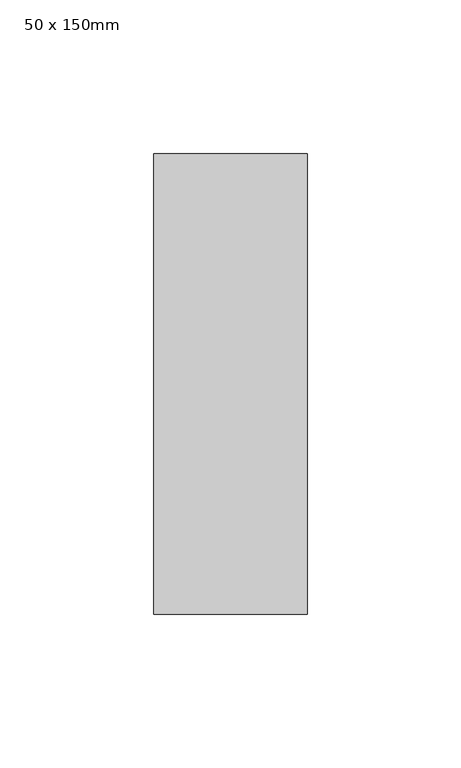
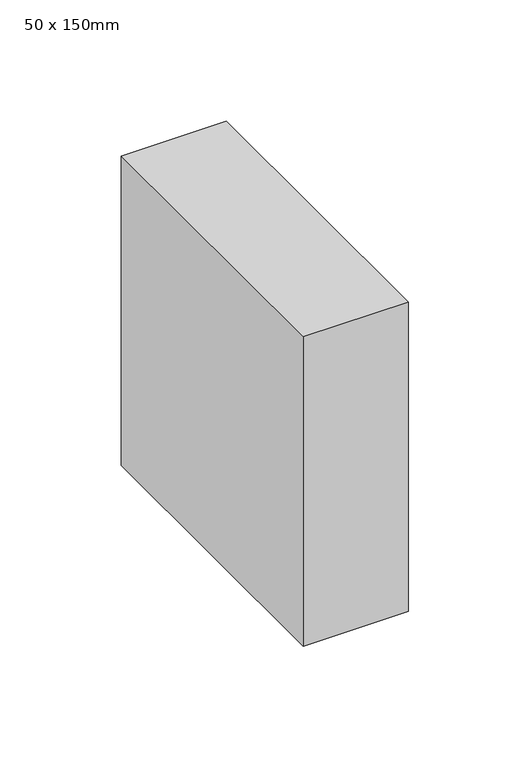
"""IFC4 building model written with IfcOpenShell, lengths in millimetres: member geometry, Прямоугольный импост : 50 x 150mm."""

from ifc_helpers import new_model, si_unit, frame, origin, place, context, project, spatial, polyline, outline, extrude, source, transform, mapped, element, save


def member_50_x_150mm_91a9abd1(model_context):
    return source(origin(), model_context, "Body", "SweptSolid", [
        extrude(outline(polyline([(0.0, 75.0), (0.0, -75.0), (-50.0, -75.0), (-50.0, 75.0), (0.0, 75.0)])), frame((0.0, 0.0, -155.9225923), z_axis=(0.0, 0.0, 1.0), x_axis=(1.0, 0.0, 0.0)), (0.0, 0.0, 1.0), 155.9225923),
    ])


if __name__ == "__main__":
    model = new_model("IFC4")
    model_context = context("Model", 3, world=origin())
    ifc_project = project(units=[si_unit("LENGTHUNIT", "METRE", prefix="MILLI")], contexts=[model_context])
    site = spatial("IfcSite", under=ifc_project)
    building = spatial("IfcBuilding", under=site)
    placement = place(None, origin())
    member_50_x_150mm_shape = member_50_x_150mm_91a9abd1(model_context)
    element("IfcMember", 1, ObjectType="Прямоугольный импост : 50 x 150mm", at=placement, inside=building, context=model_context, shape_type="MappedRepresentation", body=[
        mapped(member_50_x_150mm_shape, transform((0.0, 0.0, 0.0), x_axis=(1.0, 0.0, 0.0), y_axis=(0.0, 1.0, 0.0), z_axis=(0.0, 0.0, 1.0))),
    ])
    save(model, "model.ifc")
